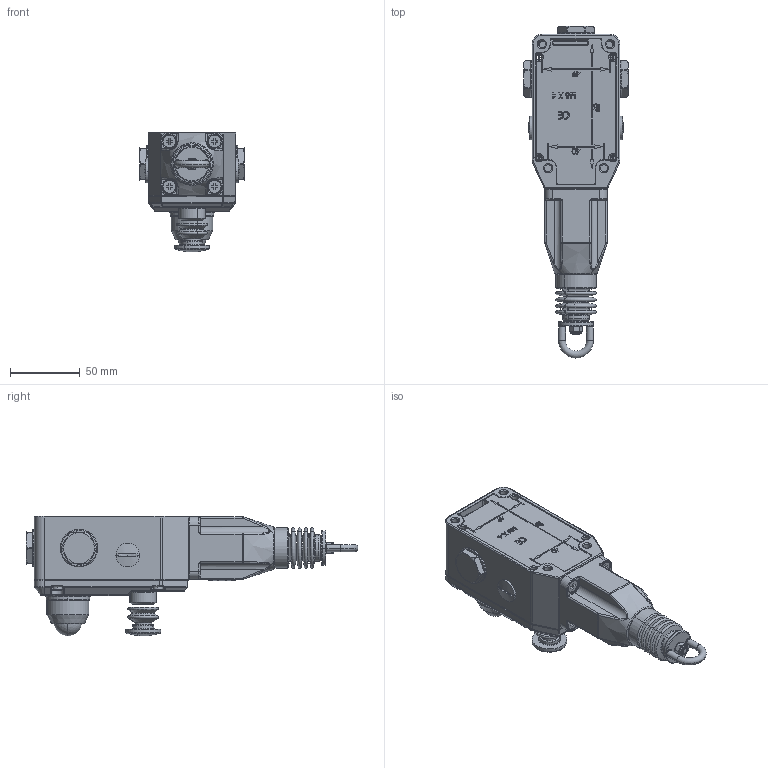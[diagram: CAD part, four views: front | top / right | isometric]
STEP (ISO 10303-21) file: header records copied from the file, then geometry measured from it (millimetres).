
FILE_DESCRIPTION (( 'STEP AP203' ), '1' );
FILE_NAME ('142-GLS (with LED) (step format).STEP', '2013-01-09T13:24:57', ( '' ), ( '' ), 'SwSTEP 2.0', 'SolidWorks 2010', '' );
FILE_SCHEMA (( 'CONFIG_CONTROL_DESIGN' ));
Length unit declared in the file: millimetre
Products named in the file (1): 142-GLS (with LED) (step format)
Bounding box: 75 x 238 x 86 mm (x, y, z)
Surface area: 60886.2 mm2 (no closed solid volume)
Topology: 0 solids, 49 shells, 954 faces, 2991 edges, 1958 vertices
Faces by surface type: cylinder 311, plane 237, torus 201, bspline 130, cone 62, sphere 13
Entity records: 39429 total; most frequent: CARTESIAN_POINT 14598, DIRECTION 5126, ORIENTED_EDGE 4776, EDGE_CURVE 2961, AXIS2_PLACEMENT_3D 1986, VERTEX_POINT 1956, CIRCLE 1161, VECTOR 1154
